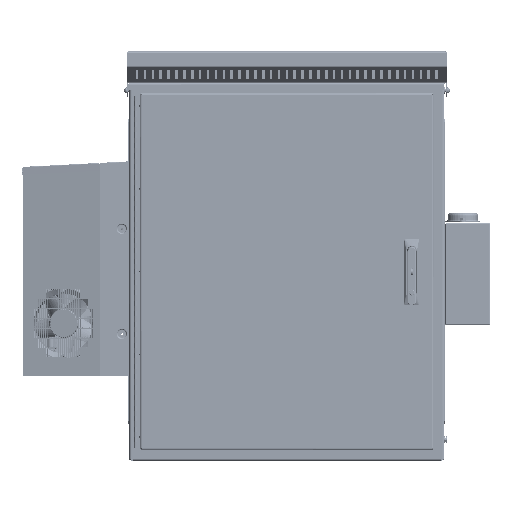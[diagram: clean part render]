
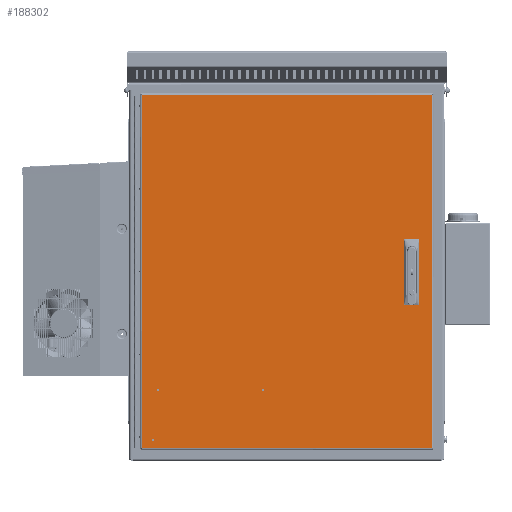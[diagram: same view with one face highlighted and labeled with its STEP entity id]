
A CAD part, front view. The second image highlights one B-rep face of the part: STEP entity #188302.
In plain terms, the highlighted planar face has unit normal (0, -1, 0).
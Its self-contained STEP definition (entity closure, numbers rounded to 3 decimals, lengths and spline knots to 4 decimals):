
#8373=PLANE('',#206276);
#20219=LINE('',#355255,#35677);
#20221=LINE('',#355259,#35679);
#20223=LINE('',#355263,#35681);
#20226=LINE('',#355269,#35684);
#20228=LINE('',#355273,#35686);
#20230=LINE('',#355277,#35688);
#20232=LINE('',#355281,#35690);
#20233=LINE('',#355283,#35691);
#20234=LINE('',#355289,#35692);
#20235=LINE('',#355292,#35693);
#20236=LINE('',#355294,#35694);
#20237=LINE('',#355296,#35695);
#20238=LINE('',#355298,#35696);
#20239=LINE('',#355300,#35697);
#20240=LINE('',#355302,#35698);
#20241=LINE('',#355304,#35699);
#35677=VECTOR('',#244434,1.);
#35679=VECTOR('',#244438,1.);
#35681=VECTOR('',#244442,1.);
#35684=VECTOR('',#244447,1.);
#35686=VECTOR('',#244451,1.);
#35688=VECTOR('',#244455,1.);
#35690=VECTOR('',#244459,1.);
#35691=VECTOR('',#244462,1.);
#35692=VECTOR('',#244469,1.);
#35693=VECTOR('',#244470,1.);
#35694=VECTOR('',#244471,1.);
#35695=VECTOR('',#244472,1.);
#35696=VECTOR('',#244473,1.);
#35697=VECTOR('',#244474,1.);
#35698=VECTOR('',#244475,1.);
#35699=VECTOR('',#244476,1.);
#49958=CIRCLE('',#206262,0.0024);
#49963=CIRCLE('',#206277,0.0024);
#49964=CIRCLE('',#206278,0.0024);
#81253=ORIENTED_EDGE('',*,*,#121122,.T.);
#81254=ORIENTED_EDGE('',*,*,#121159,.T.);
#81255=ORIENTED_EDGE('',*,*,#121160,.T.);
#81256=ORIENTED_EDGE('',*,*,#121155,.T.);
#81257=ORIENTED_EDGE('',*,*,#121153,.F.);
#81258=ORIENTED_EDGE('',*,*,#121151,.F.);
#81259=ORIENTED_EDGE('',*,*,#121157,.T.);
#81260=ORIENTED_EDGE('',*,*,#121148,.T.);
#81261=ORIENTED_EDGE('',*,*,#121146,.F.);
#81262=ORIENTED_EDGE('',*,*,#121144,.F.);
#81263=ORIENTED_EDGE('',*,*,#121158,.T.);
#81264=ORIENTED_EDGE('',*,*,#121161,.F.);
#81265=ORIENTED_EDGE('',*,*,#121162,.T.);
#81266=ORIENTED_EDGE('',*,*,#121163,.F.);
#81267=ORIENTED_EDGE('',*,*,#121164,.T.);
#81268=ORIENTED_EDGE('',*,*,#121165,.T.);
#81269=ORIENTED_EDGE('',*,*,#121166,.T.);
#81270=ORIENTED_EDGE('',*,*,#121167,.F.);
#81271=ORIENTED_EDGE('',*,*,#121168,.T.);
#121122=EDGE_CURVE('',#144420,#144420,#49958,.T.);
#121144=EDGE_CURVE('',#144441,#144442,#20219,.T.);
#121146=EDGE_CURVE('',#144442,#144443,#20221,.T.);
#121148=EDGE_CURVE('',#144444,#144443,#20223,.T.);
#121151=EDGE_CURVE('',#144445,#144446,#20226,.T.);
#121153=EDGE_CURVE('',#144446,#144447,#20228,.T.);
#121155=EDGE_CURVE('',#144448,#144447,#20230,.T.);
#121157=EDGE_CURVE('',#144445,#144448,#20232,.T.);
#121158=EDGE_CURVE('',#144441,#144444,#20233,.T.);
#121159=EDGE_CURVE('',#144449,#144449,#49963,.T.);
#121160=EDGE_CURVE('',#144450,#144450,#49964,.T.);
#121161=EDGE_CURVE('',#144451,#144452,#20234,.T.);
#121162=EDGE_CURVE('',#144451,#144453,#20235,.T.);
#121163=EDGE_CURVE('',#144454,#144453,#20236,.T.);
#121164=EDGE_CURVE('',#144454,#144455,#20237,.T.);
#121165=EDGE_CURVE('',#144455,#144456,#20238,.F.);
#121166=EDGE_CURVE('',#144456,#144457,#20239,.T.);
#121167=EDGE_CURVE('',#144458,#144457,#20240,.T.);
#121168=EDGE_CURVE('',#144458,#144452,#20241,.T.);
#144420=VERTEX_POINT('',#355210);
#144441=VERTEX_POINT('',#355254);
#144442=VERTEX_POINT('',#355256);
#144443=VERTEX_POINT('',#355260);
#144444=VERTEX_POINT('',#355264);
#144445=VERTEX_POINT('',#355268);
#144446=VERTEX_POINT('',#355270);
#144447=VERTEX_POINT('',#355274);
#144448=VERTEX_POINT('',#355278);
#144449=VERTEX_POINT('',#355286);
#144450=VERTEX_POINT('',#355288);
#144451=VERTEX_POINT('',#355290);
#144452=VERTEX_POINT('',#355291);
#144453=VERTEX_POINT('',#355293);
#144454=VERTEX_POINT('',#355295);
#144455=VERTEX_POINT('',#355297);
#144456=VERTEX_POINT('',#355299);
#144457=VERTEX_POINT('',#355301);
#144458=VERTEX_POINT('',#355303);
#163538=EDGE_LOOP('',(#81253));
#163539=EDGE_LOOP('',(#81254));
#163540=EDGE_LOOP('',(#81255));
#163541=EDGE_LOOP('',(#81256,#81257,#81258,#81259));
#163542=EDGE_LOOP('',(#81260,#81261,#81262,#81263));
#163543=EDGE_LOOP('',(#81264,#81265,#81266,#81267,#81268,#81269,#81270,
#81271));
#176694=FACE_BOUND('',#163538,.T.);
#176695=FACE_BOUND('',#163539,.T.);
#176696=FACE_BOUND('',#163540,.T.);
#176697=FACE_BOUND('',#163541,.T.);
#176698=FACE_BOUND('',#163542,.T.);
#176699=FACE_BOUND('',#163543,.T.);
#188302=ADVANCED_FACE('',(#176694,#176695,#176696,#176697,#176698,#176699),
#8373,.F.);
#206262=AXIS2_PLACEMENT_3D('',#355209,#244403,#244404);
#206276=AXIS2_PLACEMENT_3D('',#355284,#244463,#244464);
#206277=AXIS2_PLACEMENT_3D('',#355285,#244465,#244466);
#206278=AXIS2_PLACEMENT_3D('',#355287,#244467,#244468);
#244403=DIRECTION('',(0.,1.,0.));
#244404=DIRECTION('',(-1.,0.,0.));
#244434=DIRECTION('',(0.,0.,-1.));
#244438=DIRECTION('',(1.,0.,0.));
#244442=DIRECTION('',(0.,0.,-1.));
#244447=DIRECTION('',(0.,0.,1.));
#244451=DIRECTION('',(-1.,0.,0.));
#244455=DIRECTION('',(0.,0.,1.));
#244459=DIRECTION('',(-1.,0.,0.));
#244462=DIRECTION('',(1.,0.,0.));
#244463=DIRECTION('',(0.,1.,0.));
#244464=DIRECTION('',(-1.,0.,0.));
#244465=DIRECTION('',(0.,1.,0.));
#244466=DIRECTION('',(-1.,0.,0.));
#244467=DIRECTION('',(0.,1.,0.));
#244468=DIRECTION('',(-1.,0.,0.));
#244469=DIRECTION('',(0.,0.,1.));
#244470=DIRECTION('',(0.707,0.,-0.707));
#244471=DIRECTION('',(-1.,0.,0.));
#244472=DIRECTION('',(0.707,0.,0.707));
#244473=DIRECTION('',(0.,0.,-1.));
#244474=DIRECTION('',(-0.707,0.,0.707));
#244475=DIRECTION('',(1.,0.,0.));
#244476=DIRECTION('',(-0.707,0.,-0.707));
#355209=CARTESIAN_POINT('',(-0.3239,-0.508,0.0485));
#355210=CARTESIAN_POINT('',(-0.3263,-0.508,0.0485));
#355254=CARTESIAN_POINT('',(0.2879,-0.508,0.4299));
#355255=CARTESIAN_POINT('',(0.2879,-0.508,0.0231));
#355256=CARTESIAN_POINT('',(0.2879,-0.508,0.3799));
#355259=CARTESIAN_POINT('',(0.4155,-0.508,0.3799));
#355260=CARTESIAN_POINT('',(0.3153,-0.508,0.3799));
#355263=CARTESIAN_POINT('',(0.3153,-0.508,0.0231));
#355264=CARTESIAN_POINT('',(0.3153,-0.508,0.4299));
#355268=CARTESIAN_POINT('',(0.3153,-0.508,0.4799));
#355269=CARTESIAN_POINT('',(0.3153,-0.508,0.0231));
#355270=CARTESIAN_POINT('',(0.3153,-0.508,0.5299));
#355273=CARTESIAN_POINT('',(0.4155,-0.508,0.5299));
#355274=CARTESIAN_POINT('',(0.2879,-0.508,0.5299));
#355277=CARTESIAN_POINT('',(0.2879,-0.508,0.0231));
#355278=CARTESIAN_POINT('',(0.2879,-0.508,0.4799));
#355281=CARTESIAN_POINT('',(0.4155,-0.508,0.4799));
#355283=CARTESIAN_POINT('',(0.4155,-0.508,0.4299));
#355284=CARTESIAN_POINT('',(0.4155,-0.508,0.0231));
#355285=CARTESIAN_POINT('',(-0.0572,-0.508,0.1692));
#355286=CARTESIAN_POINT('',(-0.0596,-0.508,0.1692));
#355287=CARTESIAN_POINT('',(-0.3112,-0.508,0.1692));
#355288=CARTESIAN_POINT('',(-0.3136,-0.508,0.1692));
#355289=CARTESIAN_POINT('',(-0.3501,-0.508,0.0231));
#355290=CARTESIAN_POINT('',(-0.3501,-0.508,0.0287));
#355291=CARTESIAN_POINT('',(-0.3501,-0.508,0.8812));
#355292=CARTESIAN_POINT('',(0.0355,-0.508,-0.3569));
#355293=CARTESIAN_POINT('',(-0.35,-0.508,0.0286));
#355294=CARTESIAN_POINT('',(0.4155,-0.508,0.0286));
#355295=CARTESIAN_POINT('',(0.35,-0.508,0.0286));
#355296=CARTESIAN_POINT('',(0.3801,-0.508,0.0586));
#355297=CARTESIAN_POINT('',(0.3501,-0.508,0.0287));
#355298=CARTESIAN_POINT('',(0.3501,-0.508,0.0231));
#355299=CARTESIAN_POINT('',(0.3501,-0.508,0.8812));
#355300=CARTESIAN_POINT('',(0.8119,-0.508,0.4194));
#355301=CARTESIAN_POINT('',(0.35,-0.508,0.8813));
#355302=CARTESIAN_POINT('',(0.4155,-0.508,0.8813));
#355303=CARTESIAN_POINT('',(-0.35,-0.508,0.8813));
#355304=CARTESIAN_POINT('',(-0.3963,-0.508,0.835));
